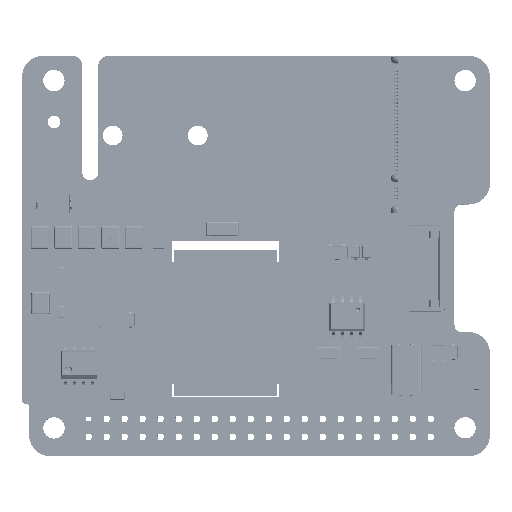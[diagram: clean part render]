
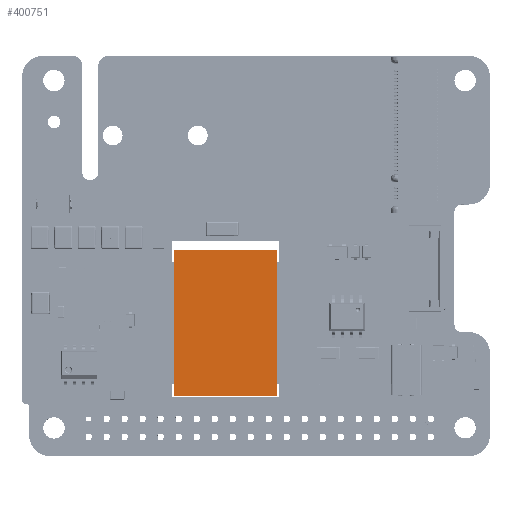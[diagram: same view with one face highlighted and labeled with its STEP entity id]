
A CAD part, top view. The second image highlights one B-rep face of the part: STEP entity #400751.
In plain terms, the highlighted planar face has unit normal (0, 0, 1).
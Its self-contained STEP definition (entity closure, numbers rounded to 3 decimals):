
#400437 = VERTEX_POINT('',#400438);
#400438 = CARTESIAN_POINT('',(-7.225,10.25,7.8));
#400445 = PLANE('',#400446);
#400446 = AXIS2_PLACEMENT_3D('',#400447,#400448,#400449);
#400447 = CARTESIAN_POINT('',(-7.225,10.25,0.));
#400448 = DIRECTION('',(1.,0.,0.));
#400449 = DIRECTION('',(0.,-1.,0.));
#400457 = PLANE('',#400458);
#400458 = AXIS2_PLACEMENT_3D('',#400459,#400460,#400461);
#400459 = CARTESIAN_POINT('',(7.225,10.25,0.));
#400460 = DIRECTION('',(0.,-1.,0.));
#400461 = DIRECTION('',(-1.,0.,0.));
#400469 = EDGE_CURVE('',#400437,#400470,#400472,.T.);
#400470 = VERTEX_POINT('',#400471);
#400471 = CARTESIAN_POINT('',(-7.225,-10.25,7.8));
#400472 = SURFACE_CURVE('',#400473,(#400477,#400484),.PCURVE_S1.);
#400473 = LINE('',#400474,#400475);
#400474 = CARTESIAN_POINT('',(-7.225,10.25,7.8));
#400475 = VECTOR('',#400476,1.);
#400476 = DIRECTION('',(0.,-1.,0.));
#400477 = PCURVE('',#400445,#400478);
#400478 = DEFINITIONAL_REPRESENTATION('',(#400479),#400483);
#400479 = LINE('',#400480,#400481);
#400480 = CARTESIAN_POINT('',(0.,-7.8));
#400481 = VECTOR('',#400482,1.);
#400482 = DIRECTION('',(1.,0.));
#400483 = ( GEOMETRIC_REPRESENTATION_CONTEXT(2) 
PARAMETRIC_REPRESENTATION_CONTEXT() REPRESENTATION_CONTEXT('2D SPACE',''
  ) );
#400484 = PCURVE('',#400485,#400490);
#400485 = PLANE('',#400486);
#400486 = AXIS2_PLACEMENT_3D('',#400487,#400488,#400489);
#400487 = CARTESIAN_POINT('',(-7.225,10.25,7.8));
#400488 = DIRECTION('',(0.,0.,-1.));
#400489 = DIRECTION('',(-1.,0.,0.));
#400490 = DEFINITIONAL_REPRESENTATION('',(#400491),#400495);
#400491 = LINE('',#400492,#400493);
#400492 = CARTESIAN_POINT('',(0.,0.));
#400493 = VECTOR('',#400494,1.);
#400494 = DIRECTION('',(0.,-1.));
#400495 = ( GEOMETRIC_REPRESENTATION_CONTEXT(2) 
PARAMETRIC_REPRESENTATION_CONTEXT() REPRESENTATION_CONTEXT('2D SPACE',''
  ) );
#400513 = PLANE('',#400514);
#400514 = AXIS2_PLACEMENT_3D('',#400515,#400516,#400517);
#400515 = CARTESIAN_POINT('',(-7.225,-10.25,0.));
#400516 = DIRECTION('',(0.,1.,0.));
#400517 = DIRECTION('',(1.,0.,0.));
#400555 = EDGE_CURVE('',#400470,#400556,#400558,.T.);
#400556 = VERTEX_POINT('',#400557);
#400557 = CARTESIAN_POINT('',(7.225,-10.25,7.8));
#400558 = SURFACE_CURVE('',#400559,(#400563,#400570),.PCURVE_S1.);
#400559 = LINE('',#400560,#400561);
#400560 = CARTESIAN_POINT('',(-7.225,-10.25,7.8));
#400561 = VECTOR('',#400562,1.);
#400562 = DIRECTION('',(1.,0.,0.));
#400563 = PCURVE('',#400513,#400564);
#400564 = DEFINITIONAL_REPRESENTATION('',(#400565),#400569);
#400565 = LINE('',#400566,#400567);
#400566 = CARTESIAN_POINT('',(0.,-7.8));
#400567 = VECTOR('',#400568,1.);
#400568 = DIRECTION('',(1.,0.));
#400569 = ( GEOMETRIC_REPRESENTATION_CONTEXT(2) 
PARAMETRIC_REPRESENTATION_CONTEXT() REPRESENTATION_CONTEXT('2D SPACE',''
  ) );
#400570 = PCURVE('',#400485,#400571);
#400571 = DEFINITIONAL_REPRESENTATION('',(#400572),#400576);
#400572 = LINE('',#400573,#400574);
#400573 = CARTESIAN_POINT('',(0.,-20.5));
#400574 = VECTOR('',#400575,1.);
#400575 = DIRECTION('',(-1.,0.));
#400576 = ( GEOMETRIC_REPRESENTATION_CONTEXT(2) 
PARAMETRIC_REPRESENTATION_CONTEXT() REPRESENTATION_CONTEXT('2D SPACE',''
  ) );
#400594 = PLANE('',#400595);
#400595 = AXIS2_PLACEMENT_3D('',#400596,#400597,#400598);
#400596 = CARTESIAN_POINT('',(7.225,-10.25,0.));
#400597 = DIRECTION('',(-1.,0.,0.));
#400598 = DIRECTION('',(0.,1.,0.));
#400631 = EDGE_CURVE('',#400556,#400632,#400634,.T.);
#400632 = VERTEX_POINT('',#400633);
#400633 = CARTESIAN_POINT('',(7.225,10.25,7.8));
#400634 = SURFACE_CURVE('',#400635,(#400639,#400646),.PCURVE_S1.);
#400635 = LINE('',#400636,#400637);
#400636 = CARTESIAN_POINT('',(7.225,-10.25,7.8));
#400637 = VECTOR('',#400638,1.);
#400638 = DIRECTION('',(0.,1.,0.));
#400639 = PCURVE('',#400594,#400640);
#400640 = DEFINITIONAL_REPRESENTATION('',(#400641),#400645);
#400641 = LINE('',#400642,#400643);
#400642 = CARTESIAN_POINT('',(0.,-7.8));
#400643 = VECTOR('',#400644,1.);
#400644 = DIRECTION('',(1.,0.));
#400645 = ( GEOMETRIC_REPRESENTATION_CONTEXT(2) 
PARAMETRIC_REPRESENTATION_CONTEXT() REPRESENTATION_CONTEXT('2D SPACE',''
  ) );
#400646 = PCURVE('',#400485,#400647);
#400647 = DEFINITIONAL_REPRESENTATION('',(#400648),#400652);
#400648 = LINE('',#400649,#400650);
#400649 = CARTESIAN_POINT('',(-14.45,-20.5));
#400650 = VECTOR('',#400651,1.);
#400651 = DIRECTION('',(0.,1.));
#400652 = ( GEOMETRIC_REPRESENTATION_CONTEXT(2) 
PARAMETRIC_REPRESENTATION_CONTEXT() REPRESENTATION_CONTEXT('2D SPACE',''
  ) );
#400702 = EDGE_CURVE('',#400632,#400437,#400703,.T.);
#400703 = SURFACE_CURVE('',#400704,(#400708,#400715),.PCURVE_S1.);
#400704 = LINE('',#400705,#400706);
#400705 = CARTESIAN_POINT('',(7.225,10.25,7.8));
#400706 = VECTOR('',#400707,1.);
#400707 = DIRECTION('',(-1.,0.,0.));
#400708 = PCURVE('',#400457,#400709);
#400709 = DEFINITIONAL_REPRESENTATION('',(#400710),#400714);
#400710 = LINE('',#400711,#400712);
#400711 = CARTESIAN_POINT('',(0.,-7.8));
#400712 = VECTOR('',#400713,1.);
#400713 = DIRECTION('',(1.,0.));
#400714 = ( GEOMETRIC_REPRESENTATION_CONTEXT(2) 
PARAMETRIC_REPRESENTATION_CONTEXT() REPRESENTATION_CONTEXT('2D SPACE',''
  ) );
#400715 = PCURVE('',#400485,#400716);
#400716 = DEFINITIONAL_REPRESENTATION('',(#400717),#400721);
#400717 = LINE('',#400718,#400719);
#400718 = CARTESIAN_POINT('',(-14.45,0.));
#400719 = VECTOR('',#400720,1.);
#400720 = DIRECTION('',(1.,0.));
#400721 = ( GEOMETRIC_REPRESENTATION_CONTEXT(2) 
PARAMETRIC_REPRESENTATION_CONTEXT() REPRESENTATION_CONTEXT('2D SPACE',''
  ) );
#400751 = ADVANCED_FACE('',(#400752),#400485,.F.);
#400752 = FACE_BOUND('',#400753,.T.);
#400753 = EDGE_LOOP('',(#400754,#400755,#400756,#400757));
#400754 = ORIENTED_EDGE('',*,*,#400469,.T.);
#400755 = ORIENTED_EDGE('',*,*,#400555,.T.);
#400756 = ORIENTED_EDGE('',*,*,#400631,.T.);
#400757 = ORIENTED_EDGE('',*,*,#400702,.T.);
